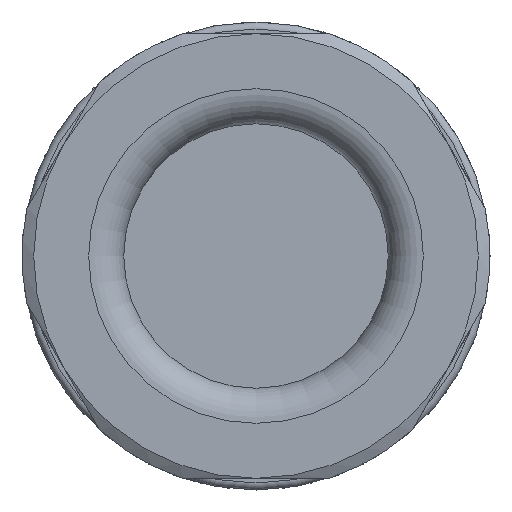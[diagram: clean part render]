
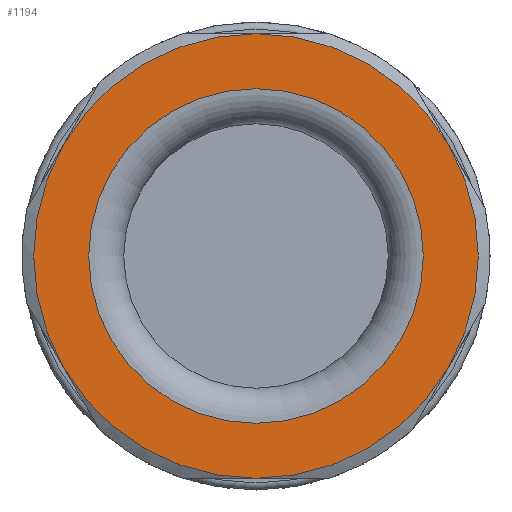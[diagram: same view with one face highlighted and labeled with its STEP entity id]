
A CAD part, left-side view. The second image highlights one B-rep face of the part: STEP entity #1194.
In plain terms, the highlighted planar face has unit normal (-1, 0, 0).
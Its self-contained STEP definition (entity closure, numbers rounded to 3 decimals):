
#331=FACE_BOUND('',#2428,.T.);
#332=FACE_BOUND('',#2429,.T.);
#685=PLANE('',#11021);
#1194=ADVANCED_FACE('',(#331,#332),#685,.T.);
#2428=EDGE_LOOP('',(#5720));
#2429=EDGE_LOOP('',(#5721,#5722,#5723,#5724,#5725,#5726));
#2824=CIRCLE('',#11014,7.15);
#2825=CIRCLE('',#11015,9.5);
#2826=CIRCLE('',#11016,9.5);
#2827=CIRCLE('',#11017,9.5);
#2828=CIRCLE('',#11018,9.5);
#2829=CIRCLE('',#11019,9.5);
#2830=CIRCLE('',#11020,9.5);
#5720=ORIENTED_EDGE('',*,*,#8297,.T.);
#5721=ORIENTED_EDGE('',*,*,#8298,.T.);
#5722=ORIENTED_EDGE('',*,*,#8299,.T.);
#5723=ORIENTED_EDGE('',*,*,#8300,.T.);
#5724=ORIENTED_EDGE('',*,*,#8301,.T.);
#5725=ORIENTED_EDGE('',*,*,#8302,.T.);
#5726=ORIENTED_EDGE('',*,*,#8303,.T.);
#6817=VERTEX_POINT('',#17321);
#6818=VERTEX_POINT('',#17323);
#6819=VERTEX_POINT('',#17324);
#6820=VERTEX_POINT('',#17326);
#6821=VERTEX_POINT('',#17328);
#6822=VERTEX_POINT('',#17330);
#6823=VERTEX_POINT('',#17332);
#8297=EDGE_CURVE('',#6817,#6817,#2824,.T.);
#8298=EDGE_CURVE('',#6818,#6819,#2825,.T.);
#8299=EDGE_CURVE('',#6819,#6820,#2826,.T.);
#8300=EDGE_CURVE('',#6820,#6821,#2827,.T.);
#8301=EDGE_CURVE('',#6821,#6822,#2828,.T.);
#8302=EDGE_CURVE('',#6822,#6823,#2829,.T.);
#8303=EDGE_CURVE('',#6823,#6818,#2830,.T.);
#11014=AXIS2_PLACEMENT_3D('',#17320,#13653,#13654);
#11015=AXIS2_PLACEMENT_3D('',#17322,#13655,#13656);
#11016=AXIS2_PLACEMENT_3D('',#17325,#13657,#13658);
#11017=AXIS2_PLACEMENT_3D('',#17327,#13659,#13660);
#11018=AXIS2_PLACEMENT_3D('',#17329,#13661,#13662);
#11019=AXIS2_PLACEMENT_3D('',#17331,#13663,#13664);
#11020=AXIS2_PLACEMENT_3D('',#17333,#13665,#13666);
#11021=AXIS2_PLACEMENT_3D('',#17334,#13667,#13668);
#13653=DIRECTION('',(1.,0.,0.));
#13654=DIRECTION('',(0.,-1.,0.));
#13655=DIRECTION('',(-1.,0.,0.));
#13656=DIRECTION('',(0.,-1.,0.));
#13657=DIRECTION('',(-1.,0.,0.));
#13658=DIRECTION('',(0.,-1.,0.));
#13659=DIRECTION('',(-1.,0.,0.));
#13660=DIRECTION('',(0.,-1.,0.));
#13661=DIRECTION('',(-1.,0.,0.));
#13662=DIRECTION('',(0.,-1.,0.));
#13663=DIRECTION('',(-1.,0.,0.));
#13664=DIRECTION('',(0.,-1.,0.));
#13665=DIRECTION('',(-1.,0.,0.));
#13666=DIRECTION('',(0.,-1.,0.));
#13667=DIRECTION('',(-1.,0.,0.));
#13668=DIRECTION('',(0.,-1.,0.));
#17320=CARTESIAN_POINT('',(-36.642,0.,0.));
#17321=CARTESIAN_POINT('',(-36.642,-7.15,0.));
#17322=CARTESIAN_POINT('',(-36.642,0.,0.));
#17323=CARTESIAN_POINT('',(-36.642,8.227,-4.75));
#17324=CARTESIAN_POINT('',(-36.642,0.,-9.5));
#17325=CARTESIAN_POINT('',(-36.642,0.,0.));
#17326=CARTESIAN_POINT('',(-36.642,-8.227,-4.75));
#17327=CARTESIAN_POINT('',(-36.642,0.,0.));
#17328=CARTESIAN_POINT('',(-36.642,-8.227,4.75));
#17329=CARTESIAN_POINT('',(-36.642,0.,0.));
#17330=CARTESIAN_POINT('',(-36.642,0.,9.5));
#17331=CARTESIAN_POINT('',(-36.642,0.,0.));
#17332=CARTESIAN_POINT('',(-36.642,8.227,4.75));
#17333=CARTESIAN_POINT('',(-36.642,0.,0.));
#17334=CARTESIAN_POINT('',(-36.642,0.,0.));
